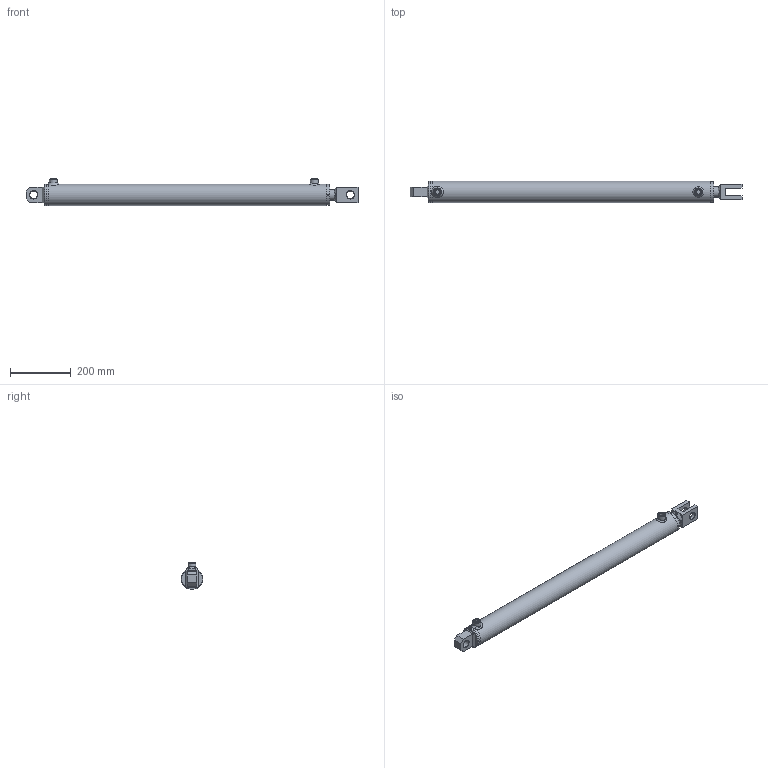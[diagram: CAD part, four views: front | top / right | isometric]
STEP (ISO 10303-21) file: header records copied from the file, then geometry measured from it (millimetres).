
FILE_DESCRIPTION( ( 'Unknown' ), '1' );
FILE_NAME( 'E:/LIBRERIA_3d/CILINDRI/HM5/HM53350800.stp', 'Unknown', ( 'Unknown' ), ( 'Unknown' ), 'PSStep 17.0.49', 'Unknown', ' ' );
FILE_SCHEMA( ( 'AUTOMOTIVE_DESIGN { 1 0 10303 214 1 1 1 1 }' ) );
Length unit declared in the file: millimetre
Products named in the file (40): CT00060020; STL3500800-oa8; Saldatura d'angolo 1-oa6; FTM3500800-oa7; CBSC220600; CG07006035; HM03350800; Saldatura con preparazione 1-oa4; Saldatura d'angolo 1-oa5; CF00060070; CBS0600000; CDA0002015; APG0600000; SBL3530800; Assem1; COF2500000; CFS0000025; Saldatura d'angolo 1-oa0; Saldatura d'angolo 2-oa1; Saldatura con preparazione 1-oa2; Saldatura d'angolo 3-oa3
Assembly tree (20 placements, depth 4):
  Saldatura d'angolo 1-oa6
  Saldatura d'angolo 1-oa6
  Saldatura d'angolo 1-oa5
  Saldatura d'angolo 1-oa5
  Assem1
    COF2500000
    CFS0000025
    Saldatura con preparazione 1-oa2
    Saldatura con preparazione 1-oa2
    HM03350800
      Saldatura con preparazione 1-oa4
      Saldatura con preparazione 1-oa4
      CF00060070
      CBS0600000
      CDA0002015
      APG0600000  x2
      SBL3530800
      CT00060020
        CT00060020
      STL3500800-oa8
        FTM3500800-oa7
        CBSC220600
      CG07006035
        CG07006035
Bounding box: 1090 x 70 x 89 mm (x, y, z)
Volume: 2233992.5 mm3; surface area: 608817.7 mm2
Topology: 36 solids, 36 shells, 322 faces, 653 edges, 414 vertices
Faces by surface type: plane 142, cylinder 72, cone 52, torus 38, bspline 18
Full cylindrical faces by diameter (mm): 4.25 x3, 5 x2, 6 x2, 7 x2, 14.95 x2, 16 x2, 16.6 x2, 19.4 x1, 20 x5, 22 x2, 24.5 x1, 25.25 x3, 26 x2, 30 x1, 35 x6, 37 x1, 38 x1, 43.6 x1, 44 x1, 45 x1, 55 x1, 55.39 x2, 58.65 x2, 59.9 x1, 60 x1, 60.3 x1, 60.5 x1, 60.6 x1, 61 x1, 62 x3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
Entity records: 13116 total; most frequent: CARTESIAN_POINT 4467, DIRECTION 1288, ORIENTED_EDGE 876, AXIS2_PLACEMENT_3D 550, EDGE_LOOP 502, EDGE_CURVE 438, FACE_OUTER_BOUND 412, VERTEX_POINT 355
